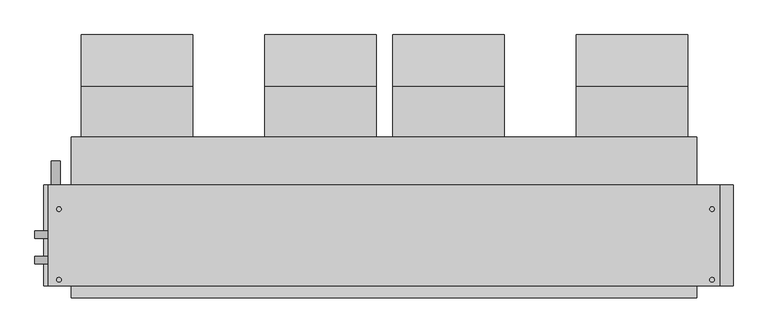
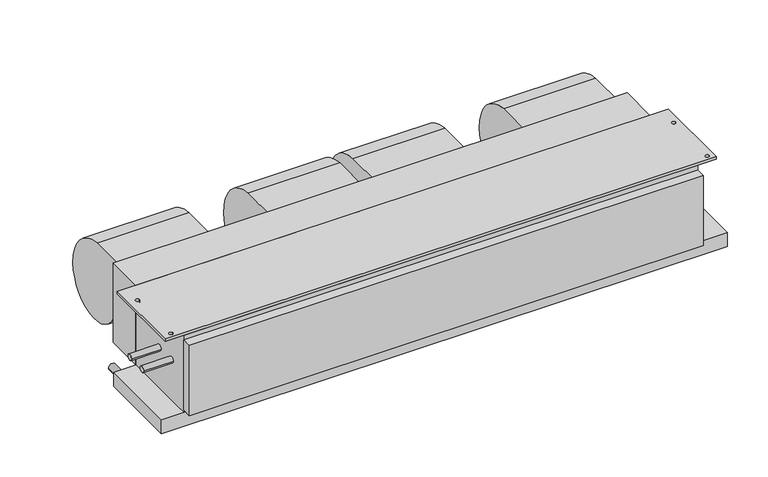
"""IFC4 building model written with IfcOpenShell, lengths in millimetres: proxy geometry, Concealed_Horizontal_Fan_Coil_Unit_-_42CAA_-_CARRIER_-_2-Pipe_Cool-EHeat_LH_2022 : Size 10 - 277v/60Hz/1Ph - 4 Row 8.0kW."""

from ifc_helpers import new_model, si_unit, point, frame, frame_2d, origin, place, context, project, spatial, polyline, circle_curve, trimmed, segment, composite_curve, outline, extrude, source, transform, mapped, element, save


def mechanical_equipment_d047f1c4(model_context):
    return source(origin(), model_context, "Body", "SweptSolid", [
        extrude(outline(composite_curve([segment(trimmed(circle_curve(frame_2d((68.401169, -136.0299844)), 117.3559541), [point((77.7875, -19.05))], [point((185.7375, -138.176))], False, "CARTESIAN"), True, "CONTINUOUS"), segment(trimmed(circle_curve(frame_2d((90.0022663, -136.4250563)), 95.7512443), [point((185.7375, -138.176))], [point((77.7875, -231.394))], False, "CARTESIAN"), True, "CONTINUOUS"), segment(trimmed(circle_curve(frame_2d((89.9711869, -136.6666968)), 95.5076133), [point((77.7875, -231.394))], [point((-5.5245, -138.176))], False, "CARTESIAN"), True, "CONTINUOUS"), segment(trimmed(circle_curve(frame_2d((-24.6059828, -138.4775816)), 19.0838659), [point((-5.5245, -138.176))], [point((-17.7963373, -120.65))], True, "CARTESIAN"), True, "CONTINUOUS"), segment(polyline([(-17.7963373, -120.65), (-30.1625, -120.65), (-30.1625, -19.05), (77.7875, -19.05)]), True, "CONTINUOUS")], self_intersect=False)), frame((558.038, 0.0, 0.0), z_axis=(1.0, 0.0, 0.0), x_axis=(0.0, 1.0, 0.0)), (0.0, 0.0, 1.0), 235.712),
        extrude(outline(composite_curve([segment(trimmed(circle_curve(frame_2d((68.401169, -136.0299844)), 117.3559541), [point((77.7875, -19.05))], [point((185.7375, -138.176))], False, "CARTESIAN"), True, "CONTINUOUS"), segment(trimmed(circle_curve(frame_2d((90.0022663, -136.4250563)), 95.7512443), [point((185.7375, -138.176))], [point((77.7875, -231.394))], False, "CARTESIAN"), True, "CONTINUOUS"), segment(trimmed(circle_curve(frame_2d((89.9711869, -136.6666968)), 95.5076133), [point((77.7875, -231.394))], [point((-5.5245, -138.176))], False, "CARTESIAN"), True, "CONTINUOUS"), segment(trimmed(circle_curve(frame_2d((-24.6059828, -138.4775816)), 19.0838659), [point((-5.5245, -138.176))], [point((-17.7963373, -120.65))], True, "CARTESIAN"), True, "CONTINUOUS"), segment(polyline([(-17.7963373, -120.65), (-30.1625, -120.65), (-30.1625, -19.05), (77.7875, -19.05)]), True, "CONTINUOUS")], self_intersect=False)), frame((-486.537, 0.0, 0.0), z_axis=(1.0, 0.0, 0.0), x_axis=(0.0, 1.0, 0.0)), (0.0, 0.0, 1.0), 235.712),
        extrude(outline(composite_curve([segment(trimmed(circle_curve(frame_2d((68.401169, -136.0299844)), 117.3559541), [point((77.7875, -19.05))], [point((185.7375, -138.176))], False, "CARTESIAN"), True, "CONTINUOUS"), segment(trimmed(circle_curve(frame_2d((90.0022663, -136.4250563)), 95.7512443), [point((185.7375, -138.176))], [point((77.7875, -231.394))], False, "CARTESIAN"), True, "CONTINUOUS"), segment(trimmed(circle_curve(frame_2d((89.9711869, -136.6666968)), 95.5076133), [point((77.7875, -231.394))], [point((-5.5245, -138.176))], False, "CARTESIAN"), True, "CONTINUOUS"), segment(trimmed(circle_curve(frame_2d((-24.6059828, -138.4775816)), 19.0838659), [point((-5.5245, -138.176))], [point((-17.7963373, -120.65))], True, "CARTESIAN"), True, "CONTINUOUS"), segment(polyline([(-17.7963373, -120.65), (-30.1625, -120.65), (-30.1625, -19.05), (77.7875, -19.05)]), True, "CONTINUOUS")], self_intersect=False)), frame((-99.187, 0.0, 0.0), z_axis=(1.0, 0.0, 0.0), x_axis=(0.0, 1.0, 0.0)), (0.0, 0.0, 1.0), 235.712),
        extrude(outline(composite_curve([segment(trimmed(circle_curve(frame_2d((68.401169, -136.0299844)), 117.3559541), [point((77.7875, -19.05))], [point((185.7375, -138.176))], False, "CARTESIAN"), True, "CONTINUOUS"), segment(trimmed(circle_curve(frame_2d((90.0022663, -136.4250563)), 95.7512443), [point((185.7375, -138.176))], [point((77.7875, -231.394))], False, "CARTESIAN"), True, "CONTINUOUS"), segment(trimmed(circle_curve(frame_2d((89.9711869, -136.6666968)), 95.5076133), [point((77.7875, -231.394))], [point((-5.5245, -138.176))], False, "CARTESIAN"), True, "CONTINUOUS"), segment(trimmed(circle_curve(frame_2d((-24.6059828, -138.4775816)), 19.0838659), [point((-5.5245, -138.176))], [point((-17.7963373, -120.65))], True, "CARTESIAN"), True, "CONTINUOUS"), segment(polyline([(-17.7963373, -120.65), (-30.1625, -120.65), (-30.1625, -19.05), (77.7875, -19.05)]), True, "CONTINUOUS")], self_intersect=False)), frame((170.688, 0.0, 0.0), z_axis=(1.0, 0.0, 0.0), x_axis=(0.0, 1.0, 0.0)), (0.0, 0.0, 1.0), 235.712),
        extrude(outline(polyline([(860.425, -131.7625), (860.425, -344.4875), (-555.625, -344.4875), (-555.625, -131.7625), (860.425, -131.7625)]), holes=[composite_curve([segment(trimmed(circle_curve(frame_2d((-533.4, -182.5625)), 4.7625), [point((-538.1625, -182.5625))], [point((-528.6375, -182.5625))], True, "CARTESIAN"), True, "CONTINUOUS"), segment(trimmed(circle_curve(frame_2d((-533.4, -182.5625)), 4.7625), [point((-528.6375, -182.5625))], [point((-538.1625, -182.5625))], True, "CARTESIAN"), True, "CONTINUOUS")], self_intersect=False), composite_curve([segment(trimmed(circle_curve(frame_2d((-533.4, -331.7875)), 4.7625), [point((-538.1625, -331.7875))], [point((-528.6375, -331.7875))], True, "CARTESIAN"), True, "CONTINUOUS"), segment(trimmed(circle_curve(frame_2d((-533.4, -331.7875)), 4.7625), [point((-528.6375, -331.7875))], [point((-538.1625, -331.7875))], True, "CARTESIAN"), True, "CONTINUOUS")], self_intersect=False), composite_curve([segment(trimmed(circle_curve(frame_2d((844.55, -182.5625)), 4.7625), [point((839.7875, -182.5625))], [point((849.3125, -182.5625))], True, "CARTESIAN"), True, "CONTINUOUS"), segment(trimmed(circle_curve(frame_2d((844.55, -182.5625)), 4.7625), [point((849.3125, -182.5625))], [point((839.7875, -182.5625))], True, "CARTESIAN"), True, "CONTINUOUS")], self_intersect=False), composite_curve([segment(trimmed(circle_curve(frame_2d((844.55, -331.7875)), 4.7625), [point((839.7875, -331.7875))], [point((849.3125, -331.7875))], True, "CARTESIAN"), True, "CONTINUOUS"), segment(trimmed(circle_curve(frame_2d((844.55, -331.7875)), 4.7625), [point((849.3125, -331.7875))], [point((839.7875, -331.7875))], True, "CARTESIAN"), True, "CONTINUOUS")], self_intersect=False)]), frame((0.0, 0.0, -6.35), z_axis=(0.0, 0.0, 1.0), x_axis=(1.0, 0.0, 0.0)), (0.0, 0.0, 1.0), 6.35),
        extrude(outline(polyline([(-508.0, -30.1625), (812.8, -30.1625), (812.8, -131.7625), (-508.0, -131.7625), (-508.0, -30.1625)])), frame((0.0, 0.0, -215.9), z_axis=(0.0, 0.0, 1.0), x_axis=(1.0, 0.0, 0.0)), (0.0, 0.0, 1.0), 215.9),
        extrude(outline(composite_curve([segment(trimmed(circle_curve(frame_2d((-241.3, -539.75)), 9.525), [point((-241.3, -549.275))], [point((-241.3, -530.225))], False, "CARTESIAN"), True, "CONTINUOUS"), segment(trimmed(circle_curve(frame_2d((-241.3, -539.75)), 9.525), [point((-241.3, -530.225))], [point((-241.3, -549.275))], False, "CARTESIAN"), True, "CONTINUOUS")], self_intersect=False)), frame((0.0, -131.7625, 0.0), z_axis=(0.0, 1.0, 0.0), x_axis=(0.0, 0.0, 1.0)), (0.0, 0.0, 1.0), 50.8),
        extrude(outline(polyline([(812.8, -369.8875), (-508.0, -369.8875), (-508.0, -344.4875), (812.8, -344.4875), (812.8, -369.8875)])), frame((0.0, 0.0, -209.55), z_axis=(0.0, 0.0, 1.0), x_axis=(1.0, 0.0, 0.0)), (0.0, 0.0, 1.0), 190.5),
        extrude(outline(polyline([(889.0, -131.7625), (889.0, -344.4875), (-565.15, -344.4875), (-565.15, -131.7625), (889.0, -131.7625)])), frame((0.0, 0.0, -254.0), z_axis=(0.0, 0.0, 1.0), x_axis=(1.0, 0.0, 0.0)), (0.0, 0.0, 1.0), 38.1),
        extrude(outline(composite_curve([segment(trimmed(circle_curve(frame_2d((-290.5125, -104.775)), 7.9375), [point((-282.575, -104.775))], [point((-298.45, -104.775))], False, "CARTESIAN"), True, "CONTINUOUS"), segment(trimmed(circle_curve(frame_2d((-290.5125, -104.775)), 7.9375), [point((-298.45, -104.775))], [point((-282.575, -104.775))], False, "CARTESIAN"), True, "CONTINUOUS")], self_intersect=False)), frame((-584.2, 0.0, 0.0), z_axis=(1.0, 0.0, 0.0), x_axis=(0.0, 1.0, 0.0)), (0.0, 0.0, 1.0), 76.2),
        extrude(outline(composite_curve([segment(trimmed(circle_curve(frame_2d((-236.5375, -104.775)), 7.9375), [point((-228.6, -104.775))], [point((-244.475, -104.775))], False, "CARTESIAN"), True, "CONTINUOUS"), segment(trimmed(circle_curve(frame_2d((-236.5375, -104.775)), 7.9375), [point((-244.475, -104.775))], [point((-228.6, -104.775))], False, "CARTESIAN"), True, "CONTINUOUS")], self_intersect=False)), frame((-584.2, 0.0, 0.0), z_axis=(1.0, 0.0, 0.0), x_axis=(0.0, 1.0, 0.0)), (0.0, 0.0, 1.0), 76.2),
        extrude(outline(polyline([(812.8, -344.4875), (-508.0, -344.4875), (-508.0, -131.7625), (812.8, -131.7625), (812.8, -344.4875)])), frame((0.0, 0.0, -215.9), z_axis=(0.0, 0.0, 1.0), x_axis=(1.0, 0.0, 0.0)), (0.0, 0.0, 1.0), 209.55),
    ])


if __name__ == "__main__":
    model = new_model("IFC4")
    model_context = context("Model", 3, world=origin())
    ifc_project = project(units=[si_unit("LENGTHUNIT", "METRE", prefix="MILLI")], contexts=[model_context])
    site = spatial("IfcSite", under=ifc_project)
    building = spatial("IfcBuilding", under=site)
    placement = place(None, origin())
    mechanical_equipment_shape = mechanical_equipment_d047f1c4(model_context)
    element("IfcBuildingElementProxy", 1, Name="Concealed_Horizontal_Fan_Coil_Unit_-_42CAA_-_CARRIER_-_2-Pipe_Cool-EHeat_LH_2022 : Size 10 - 277v/60Hz/1Ph - 4 Row 8.0kW", ObjectType="Concealed_Horizontal_Fan_Coil_Unit_-_42CAA_-_CARRIER_-_2-Pipe_Cool-EHeat_LH_2022 : Size 10 - 277v/60Hz/1Ph - 4 Row 8.0kW", at=placement, inside=building, context=model_context, shape_type="MappedRepresentation", body=[
        mapped(mechanical_equipment_shape, transform((0.0, 0.0, 0.0), x_axis=(1.0, 0.0, 0.0), y_axis=(0.0, 1.0, 0.0), z_axis=(0.0, 0.0, 1.0))),
    ])
    save(model, "model.ifc")
